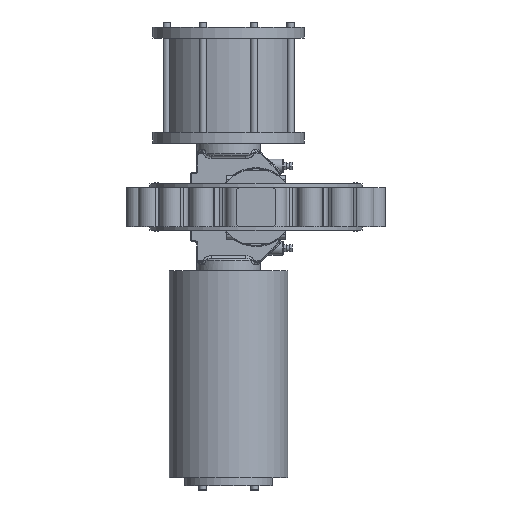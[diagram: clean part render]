
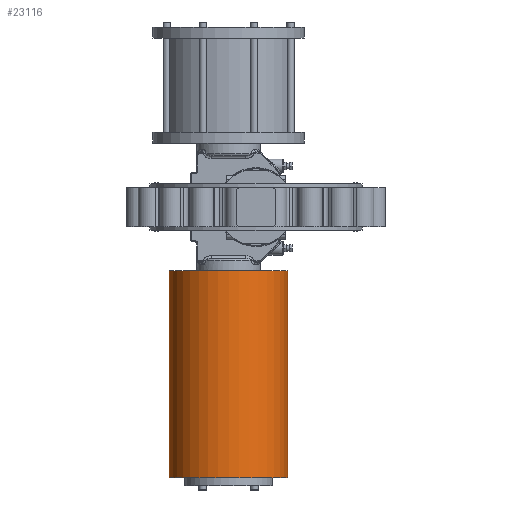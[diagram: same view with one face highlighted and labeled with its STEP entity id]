
A CAD part, front view. The second image highlights one B-rep face of the part: STEP entity #23116.
In plain terms, the highlighted cylindrical face has radius 162.5 mm (diameter 325 mm), a partial arc.
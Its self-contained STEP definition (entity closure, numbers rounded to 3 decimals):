
#1703 = AXIS2_PLACEMENT_3D ( 'NONE', #10571, #7686, #23577 ) ;
#1897 = CARTESIAN_POINT ( 'NONE',  ( 0., 0., 0. ) ) ;
#2137 = AXIS2_PLACEMENT_3D ( 'NONE', #31747, #21142, #23733 ) ;
#2878 = ORIENTED_EDGE ( 'NONE', *, *, #18250, .F. ) ;
#5863 = CARTESIAN_POINT ( 'NONE',  ( 175., 0., -162.5 ) ) ;
#5950 = CARTESIAN_POINT ( 'NONE',  ( 741., 0., -162.5 ) ) ;
#7104 = CIRCLE ( 'NONE', #1703, 162.5 ) ;
#7240 = DIRECTION ( 'NONE',  ( 1., 0., 0. ) ) ;
#7522 = ORIENTED_EDGE ( 'NONE', *, *, #8509, .F. ) ;
#7686 = DIRECTION ( 'NONE',  ( 1., 0., 0. ) ) ;
#7904 = ORIENTED_EDGE ( 'NONE', *, *, #10668, .T. ) ;
#8509 = EDGE_CURVE ( 'NONE', #11855, #18514, #29338, .T. ) ;
#10571 = CARTESIAN_POINT ( 'NONE',  ( 175., 0., 0. ) ) ;
#10668 = EDGE_CURVE ( 'NONE', #31858, #25406, #7104, .T. ) ;
#10862 = CARTESIAN_POINT ( 'NONE',  ( 175., 0., 162.5 ) ) ;
#11177 = CARTESIAN_POINT ( 'NONE',  ( 0., 0., -162.5 ) ) ;
#11855 = VERTEX_POINT ( 'NONE', #18049 ) ;
#12575 = FACE_OUTER_BOUND ( 'NONE', #30134, .T. ) ;
#13517 = VECTOR ( 'NONE', #19184, 1000. ) ;
#14547 = EDGE_CURVE ( 'NONE', #25406, #18514, #21764, .T. ) ;
#14893 = CARTESIAN_POINT ( 'NONE',  ( 0., 0., 162.5 ) ) ;
#16806 = ORIENTED_EDGE ( 'NONE', *, *, #14547, .T. ) ;
#18049 = CARTESIAN_POINT ( 'NONE',  ( 741., 0., 162.5 ) ) ;
#18250 = EDGE_CURVE ( 'NONE', #31858, #11855, #30824, .T. ) ;
#18514 = VERTEX_POINT ( 'NONE', #5950 ) ;
#19184 = DIRECTION ( 'NONE',  ( 1., 0., 0. ) ) ;
#21142 = DIRECTION ( 'NONE',  ( 1., 0., 0. ) ) ;
#21764 = LINE ( 'NONE', #11177, #13517 ) ;
#23116 = ADVANCED_FACE ( 'NONE', ( #12575 ), #25231, .T. ) ;
#23577 = DIRECTION ( 'NONE',  ( 0., 0., -1. ) ) ;
#23733 = DIRECTION ( 'NONE',  ( 0., 0., -1. ) ) ;
#25231 = CYLINDRICAL_SURFACE ( 'NONE', #32131, 162.5 ) ;
#25406 = VERTEX_POINT ( 'NONE', #5863 ) ;
#29338 = CIRCLE ( 'NONE', #2137, 162.5 ) ;
#30134 = EDGE_LOOP ( 'NONE', ( #2878, #7904, #16806, #7522 ) ) ;
#30197 = DIRECTION ( 'NONE',  ( 1., 0., 0. ) ) ;
#30824 = LINE ( 'NONE', #14893, #33383 ) ;
#31747 = CARTESIAN_POINT ( 'NONE',  ( 741., 0., 0. ) ) ;
#31858 = VERTEX_POINT ( 'NONE', #10862 ) ;
#32131 = AXIS2_PLACEMENT_3D ( 'NONE', #1897, #30197, #33238 ) ;
#33238 = DIRECTION ( 'NONE',  ( 0., 0., -1. ) ) ;
#33383 = VECTOR ( 'NONE', #7240, 1000. ) ;
